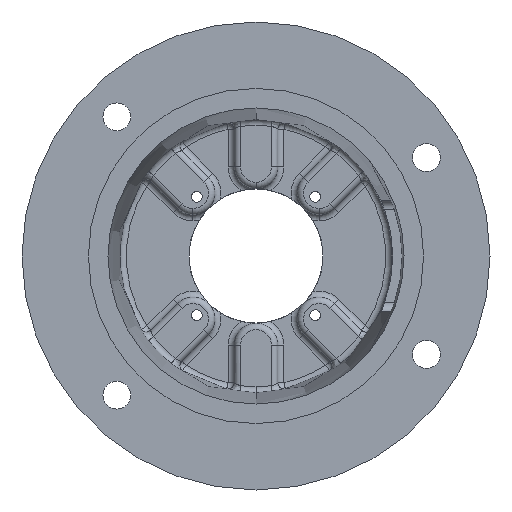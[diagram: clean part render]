
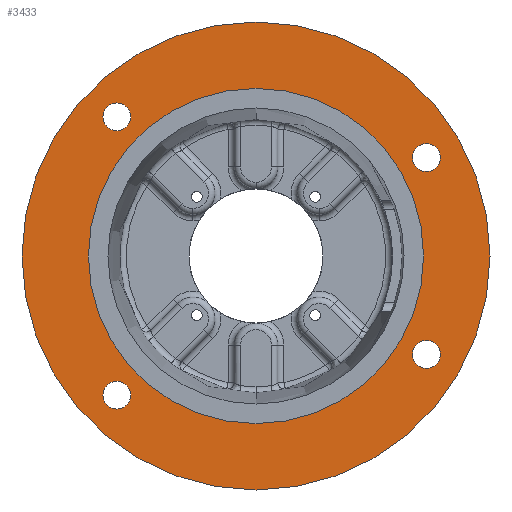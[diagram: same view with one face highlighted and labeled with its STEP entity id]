
A CAD part, front view. The second image highlights one B-rep face of the part: STEP entity #3433.
In plain terms, the highlighted planar face has unit normal (0, -1, 0).
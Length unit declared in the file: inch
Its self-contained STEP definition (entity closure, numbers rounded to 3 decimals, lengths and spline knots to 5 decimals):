
#132 = ORIENTED_EDGE ( 'NONE', *, *, #9220, .F. ) ;
#495 = VERTEX_POINT ( 'NONE', #10095 ) ;
#508 = DIRECTION ( 'NONE',  ( 0., -1., 0. ) ) ;
#598 = CARTESIAN_POINT ( 'NONE',  ( 4.00537, 0., -1.98438 ) ) ;
#673 = DIRECTION ( 'NONE',  ( 0., -1., 0. ) ) ;
#832 = EDGE_LOOP ( 'NONE', ( #3021, #13046 ) ) ;
#840 = CARTESIAN_POINT ( 'NONE',  ( -3.27037, 0., -2.94224 ) ) ;
#1000 = AXIS2_PLACEMENT_3D ( 'NONE', #9747, #3571, #10761 ) ;
#1616 = CARTESIAN_POINT ( 'NONE',  ( 4.00537, 0., 2.3125 ) ) ;
#1654 = EDGE_CURVE ( 'NONE', #6298, #12707, #1837, .T. ) ;
#1657 = VERTEX_POINT ( 'NONE', #5508 ) ;
#1689 = CARTESIAN_POINT ( 'NONE',  ( 4.00537, 0., -2.3125 ) ) ;
#1793 = AXIS2_PLACEMENT_3D ( 'NONE', #1616, #8796, #2640 ) ;
#1820 = EDGE_CURVE ( 'NONE', #1945, #11623, #3581, .T. ) ;
#1837 = CIRCLE ( 'NONE', #8651, 0.32812 ) ;
#1945 = VERTEX_POINT ( 'NONE', #5656 ) ;
#2022 = AXIS2_PLACEMENT_3D ( 'NONE', #5871, #13076, #6908 ) ;
#2080 = DIRECTION ( 'NONE',  ( 0., -1., 0. ) ) ;
#2217 = FACE_BOUND ( 'NONE', #832, .T. ) ;
#2297 = CARTESIAN_POINT ( 'NONE',  ( 4.00537, 0., 1.98437 ) ) ;
#2558 = ORIENTED_EDGE ( 'NONE', *, *, #6749, .F. ) ;
#2640 = DIRECTION ( 'NONE',  ( 0., 0., -1. ) ) ;
#2725 = DIRECTION ( 'NONE',  ( 0., -1., 0. ) ) ;
#2918 = DIRECTION ( 'NONE',  ( 0., -1., 0. ) ) ;
#3021 = ORIENTED_EDGE ( 'NONE', *, *, #4029, .F. ) ;
#3035 = CARTESIAN_POINT ( 'NONE',  ( -3.27037, 0., 3.59849 ) ) ;
#3433 = ADVANCED_FACE ( 'NONE', ( #4928, #7695, #2217, #12824, #13164, #10099 ), #4364, .F. ) ;
#3571 = DIRECTION ( 'NONE',  ( 0., -1., 0. ) ) ;
#3581 = CIRCLE ( 'NONE', #12517, 0.32812 ) ;
#3749 = VERTEX_POINT ( 'NONE', #3035 ) ;
#3793 = CIRCLE ( 'NONE', #1793, 0.32812 ) ;
#3832 = VERTEX_POINT ( 'NONE', #2297 ) ;
#4029 = EDGE_CURVE ( 'NONE', #12707, #6298, #11040, .T. ) ;
#4156 = AXIS2_PLACEMENT_3D ( 'NONE', #6820, #673, #7889 ) ;
#4351 = DIRECTION ( 'NONE',  ( 0., 0., 1. ) ) ;
#4361 = DIRECTION ( 'NONE',  ( 0., 1., 0. ) ) ;
#4364 = PLANE ( 'NONE',  #6363 ) ;
#4413 = CARTESIAN_POINT ( 'NONE',  ( -5.5, 0., 0. ) ) ;
#4414 = CARTESIAN_POINT ( 'NONE',  ( 4.00537, 0., 2.64062 ) ) ;
#4575 = DIRECTION ( 'NONE',  ( 0., -1., 0. ) ) ;
#4780 = VERTEX_POINT ( 'NONE', #9285 ) ;
#4883 = CIRCLE ( 'NONE', #7190, 3.9385 ) ;
#4928 = FACE_BOUND ( 'NONE', #11771, .T. ) ;
#5046 = CARTESIAN_POINT ( 'NONE',  ( 4.00537, 0., -2.3125 ) ) ;
#5077 = VERTEX_POINT ( 'NONE', #7899 ) ;
#5292 = EDGE_CURVE ( 'NONE', #11623, #1945, #6978, .T. ) ;
#5297 = EDGE_LOOP ( 'NONE', ( #132, #7865 ) ) ;
#5508 = CARTESIAN_POINT ( 'NONE',  ( 0., 0., 3.9385 ) ) ;
#5579 = VERTEX_POINT ( 'NONE', #4414 ) ;
#5656 = CARTESIAN_POINT ( 'NONE',  ( 4.00537, 0., -2.64063 ) ) ;
#5774 = EDGE_CURVE ( 'NONE', #8873, #495, #12302, .T. ) ;
#5865 = CIRCLE ( 'NONE', #11080, 0.32812 ) ;
#5871 = CARTESIAN_POINT ( 'NONE',  ( 0., 0., 0. ) ) ;
#5963 = AXIS2_PLACEMENT_3D ( 'NONE', #5046, #12278, #6099 ) ;
#6099 = DIRECTION ( 'NONE',  ( 0., 0., -1. ) ) ;
#6245 = DIRECTION ( 'NONE',  ( 0., 0., -1. ) ) ;
#6263 = EDGE_CURVE ( 'NONE', #5077, #3749, #7793, .T. ) ;
#6298 = VERTEX_POINT ( 'NONE', #840 ) ;
#6363 = AXIS2_PLACEMENT_3D ( 'NONE', #4413, #4361, #4351 ) ;
#6564 = CARTESIAN_POINT ( 'NONE',  ( -3.27037, 0., -3.27037 ) ) ;
#6653 = CARTESIAN_POINT ( 'NONE',  ( -3.27037, 0., 3.27037 ) ) ;
#6749 = EDGE_CURVE ( 'NONE', #3749, #5077, #7956, .T. ) ;
#6803 = EDGE_CURVE ( 'NONE', #1657, #4780, #10327, .T. ) ;
#6820 = CARTESIAN_POINT ( 'NONE',  ( 0., 0., 0. ) ) ;
#6854 = CIRCLE ( 'NONE', #4156, 5.5 ) ;
#6908 = DIRECTION ( 'NONE',  ( 0., 0., -1. ) ) ;
#6978 = CIRCLE ( 'NONE', #5963, 0.32812 ) ;
#7148 = ORIENTED_EDGE ( 'NONE', *, *, #8230, .F. ) ;
#7190 = AXIS2_PLACEMENT_3D ( 'NONE', #8248, #2080, #9269 ) ;
#7333 = EDGE_CURVE ( 'NONE', #495, #8873, #6854, .T. ) ;
#7695 = FACE_BOUND ( 'NONE', #12249, .T. ) ;
#7719 = DIRECTION ( 'NONE',  ( 0., 0., -1. ) ) ;
#7793 = CIRCLE ( 'NONE', #12786, 0.32812 ) ;
#7865 = ORIENTED_EDGE ( 'NONE', *, *, #6803, .F. ) ;
#7889 = DIRECTION ( 'NONE',  ( 0., 0., -1. ) ) ;
#7899 = CARTESIAN_POINT ( 'NONE',  ( -3.27037, 0., 2.94224 ) ) ;
#7956 = CIRCLE ( 'NONE', #8151, 0.32812 ) ;
#7967 = AXIS2_PLACEMENT_3D ( 'NONE', #11558, #11508, #11459 ) ;
#8109 = ORIENTED_EDGE ( 'NONE', *, *, #6263, .F. ) ;
#8151 = AXIS2_PLACEMENT_3D ( 'NONE', #6653, #508, #7719 ) ;
#8230 = EDGE_CURVE ( 'NONE', #5579, #3832, #3793, .T. ) ;
#8248 = CARTESIAN_POINT ( 'NONE',  ( 0., 0., 0. ) ) ;
#8358 = CARTESIAN_POINT ( 'NONE',  ( -3.27037, 0., -3.59849 ) ) ;
#8651 = AXIS2_PLACEMENT_3D ( 'NONE', #6564, #2725, #6245 ) ;
#8796 = DIRECTION ( 'NONE',  ( 0., -1., 0. ) ) ;
#8873 = VERTEX_POINT ( 'NONE', #10242 ) ;
#9073 = CARTESIAN_POINT ( 'NONE',  ( -3.27037, 0., 3.27037 ) ) ;
#9162 = ORIENTED_EDGE ( 'NONE', *, *, #1820, .F. ) ;
#9220 = EDGE_CURVE ( 'NONE', #4780, #1657, #4883, .T. ) ;
#9269 = DIRECTION ( 'NONE',  ( 0., 0., -1. ) ) ;
#9285 = CARTESIAN_POINT ( 'NONE',  ( 0., 0., -3.9385 ) ) ;
#9346 = ORIENTED_EDGE ( 'NONE', *, *, #12902, .F. ) ;
#9354 = EDGE_LOOP ( 'NONE', ( #9663, #13028 ) ) ;
#9663 = ORIENTED_EDGE ( 'NONE', *, *, #5774, .T. ) ;
#9747 = CARTESIAN_POINT ( 'NONE',  ( 0., 0., 0. ) ) ;
#10095 = CARTESIAN_POINT ( 'NONE',  ( 0., 0., 5.5 ) ) ;
#10099 = FACE_OUTER_BOUND ( 'NONE', #9354, .T. ) ;
#10102 = DIRECTION ( 'NONE',  ( 0., 0., -1. ) ) ;
#10242 = CARTESIAN_POINT ( 'NONE',  ( 0., 0., -5.5 ) ) ;
#10327 = CIRCLE ( 'NONE', #1000, 3.9385 ) ;
#10754 = CARTESIAN_POINT ( 'NONE',  ( 4.00537, 0., 2.3125 ) ) ;
#10761 = DIRECTION ( 'NONE',  ( 0., 0., -1. ) ) ;
#11040 = CIRCLE ( 'NONE', #7967, 0.32812 ) ;
#11080 = AXIS2_PLACEMENT_3D ( 'NONE', #10754, #4575, #11796 ) ;
#11116 = EDGE_LOOP ( 'NONE', ( #8109, #2558 ) ) ;
#11459 = DIRECTION ( 'NONE',  ( 0., 0., -1. ) ) ;
#11508 = DIRECTION ( 'NONE',  ( 0., -1., 0. ) ) ;
#11558 = CARTESIAN_POINT ( 'NONE',  ( -3.27037, 0., -3.27037 ) ) ;
#11623 = VERTEX_POINT ( 'NONE', #598 ) ;
#11771 = EDGE_LOOP ( 'NONE', ( #9346, #7148 ) ) ;
#11796 = DIRECTION ( 'NONE',  ( 0., 0., -1. ) ) ;
#12249 = EDGE_LOOP ( 'NONE', ( #9162, #13308 ) ) ;
#12278 = DIRECTION ( 'NONE',  ( 0., -1., 0. ) ) ;
#12302 = CIRCLE ( 'NONE', #2022, 5.5 ) ;
#12517 = AXIS2_PLACEMENT_3D ( 'NONE', #1689, #13006, #12959 ) ;
#12707 = VERTEX_POINT ( 'NONE', #8358 ) ;
#12786 = AXIS2_PLACEMENT_3D ( 'NONE', #9073, #2918, #10102 ) ;
#12824 = FACE_BOUND ( 'NONE', #11116, .T. ) ;
#12902 = EDGE_CURVE ( 'NONE', #3832, #5579, #5865, .T. ) ;
#12959 = DIRECTION ( 'NONE',  ( 0., 0., -1. ) ) ;
#13006 = DIRECTION ( 'NONE',  ( 0., -1., 0. ) ) ;
#13028 = ORIENTED_EDGE ( 'NONE', *, *, #7333, .T. ) ;
#13046 = ORIENTED_EDGE ( 'NONE', *, *, #1654, .F. ) ;
#13076 = DIRECTION ( 'NONE',  ( 0., -1., 0. ) ) ;
#13164 = FACE_BOUND ( 'NONE', #5297, .T. ) ;
#13308 = ORIENTED_EDGE ( 'NONE', *, *, #5292, .F. ) ;
